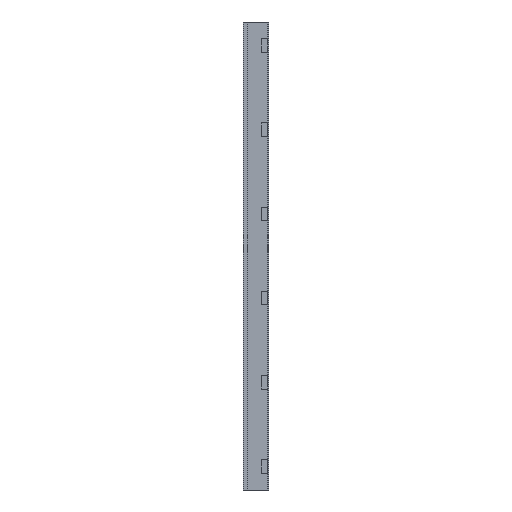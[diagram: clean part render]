
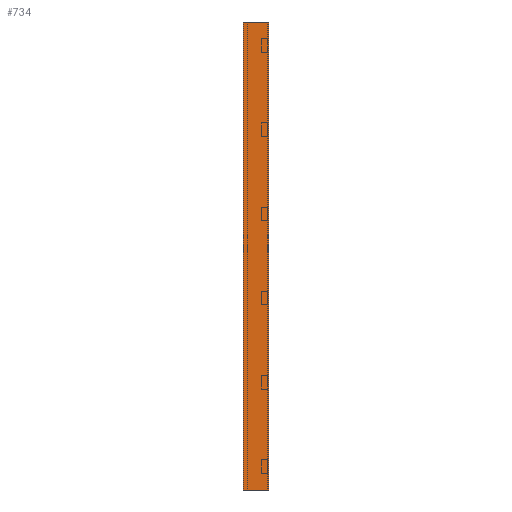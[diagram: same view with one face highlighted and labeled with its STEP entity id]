
A CAD part, left-side view. The second image highlights one B-rep face of the part: STEP entity #734.
In plain terms, the highlighted planar face has unit normal (-1, 0, 0).
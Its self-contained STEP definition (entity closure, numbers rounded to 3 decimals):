
#33 = CARTESIAN_POINT ( 'NONE',  ( 0., 0., -1400. ) ) ;
#58 = VERTEX_POINT ( 'NONE', #71 ) ;
#64 = DIRECTION ( 'NONE',  ( 0., 0., 1. ) ) ;
#71 = CARTESIAN_POINT ( 'NONE',  ( 0., 75., -1400. ) ) ;
#143 = EDGE_CURVE ( 'NONE', #1596, #1191, #515, .T. ) ;
#167 = EDGE_CURVE ( 'NONE', #789, #1191, #208, .T. ) ;
#208 = LINE ( 'NONE', #610, #884 ) ;
#231 = ORIENTED_EDGE ( 'NONE', *, *, #167, .T. ) ;
#314 = EDGE_CURVE ( 'NONE', #58, #1596, #1041, .T. ) ;
#497 = EDGE_LOOP ( 'NONE', ( #1491, #545, #1575, #231 ) ) ;
#515 = LINE ( 'NONE', #1056, #837 ) ;
#545 = ORIENTED_EDGE ( 'NONE', *, *, #314, .F. ) ;
#590 = VECTOR ( 'NONE', #1609, 1000. ) ;
#610 = CARTESIAN_POINT ( 'NONE',  ( 0., 0., -1400. ) ) ;
#653 = CARTESIAN_POINT ( 'NONE',  ( 0., 75., -1400. ) ) ;
#716 = PLANE ( 'NONE',  #1234 ) ;
#734 = ADVANCED_FACE ( 'NONE', ( #1381 ), #716, .T. ) ;
#789 = VERTEX_POINT ( 'NONE', #33 ) ;
#837 = VECTOR ( 'NONE', #1032, 1000. ) ;
#849 = DIRECTION ( 'NONE',  ( -1., 0., 0. ) ) ;
#884 = VECTOR ( 'NONE', #1122, 1000. ) ;
#951 = CARTESIAN_POINT ( 'NONE',  ( 0., 0., -1400. ) ) ;
#1032 = DIRECTION ( 'NONE',  ( 0., -1., 0. ) ) ;
#1041 = LINE ( 'NONE', #653, #1150 ) ;
#1056 = CARTESIAN_POINT ( 'NONE',  ( 0., 0., 0. ) ) ;
#1096 = LINE ( 'NONE', #1199, #590 ) ;
#1122 = DIRECTION ( 'NONE',  ( 0., 0., 1. ) ) ;
#1150 = VECTOR ( 'NONE', #1403, 1000. ) ;
#1191 = VERTEX_POINT ( 'NONE', #1417 ) ;
#1199 = CARTESIAN_POINT ( 'NONE',  ( 0., 0., -1400. ) ) ;
#1234 = AXIS2_PLACEMENT_3D ( 'NONE', #951, #849, #64 ) ;
#1370 = EDGE_CURVE ( 'NONE', #58, #789, #1096, .T. ) ;
#1381 = FACE_OUTER_BOUND ( 'NONE', #497, .T. ) ;
#1403 = DIRECTION ( 'NONE',  ( 0., 0., 1. ) ) ;
#1417 = CARTESIAN_POINT ( 'NONE',  ( 0., 0., 0. ) ) ;
#1491 = ORIENTED_EDGE ( 'NONE', *, *, #143, .F. ) ;
#1558 = CARTESIAN_POINT ( 'NONE',  ( 0., 75., 0. ) ) ;
#1575 = ORIENTED_EDGE ( 'NONE', *, *, #1370, .T. ) ;
#1596 = VERTEX_POINT ( 'NONE', #1558 ) ;
#1609 = DIRECTION ( 'NONE',  ( 0., -1., 0. ) ) ;
